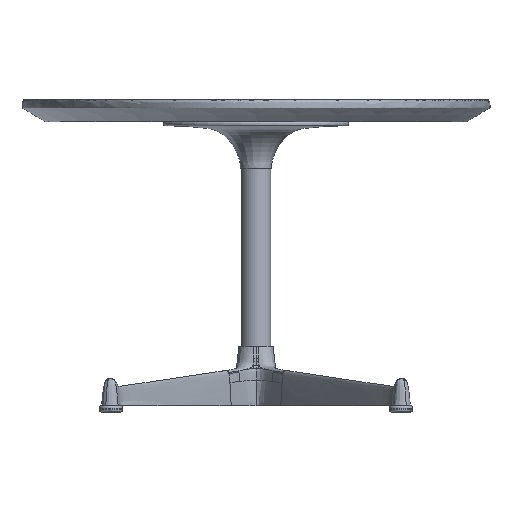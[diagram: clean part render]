
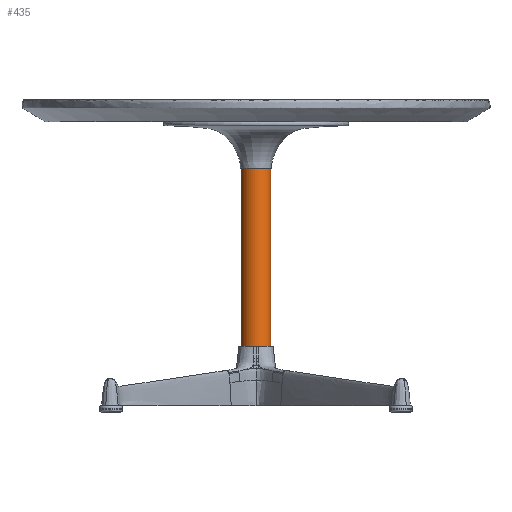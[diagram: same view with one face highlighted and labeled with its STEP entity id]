
A CAD part, left-side view. The second image highlights one B-rep face of the part: STEP entity #435.
In plain terms, the highlighted free-form (B-spline) face has degree [2, 1] with [9, 2] control points.
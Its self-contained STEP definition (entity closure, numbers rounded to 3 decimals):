
#435=ADVANCED_FACE('',(#546),#1705,.T.);
#546=FACE_OUTER_BOUND('',#657,.T.);
#657=EDGE_LOOP('',(#1131,#1132,#1133,#1134));
#1131=ORIENTED_EDGE('',*,*,#1420,.T.);
#1132=ORIENTED_EDGE('',*,*,#1421,.T.);
#1133=ORIENTED_EDGE('',*,*,#1422,.F.);
#1134=ORIENTED_EDGE('',*,*,#1421,.F.);
#1420=EDGE_CURVE('',#1672,#1672,#1498,.T.);
#1421=EDGE_CURVE('',#1672,#1673,#1499,.T.);
#1422=EDGE_CURVE('',#1673,#1673,#1500,.T.);
#1498=(
BOUNDED_CURVE()
B_SPLINE_CURVE(2,(#19390,#19391,#19392,#19393,#19394,#19395,#19396,#19397,
#19398),.UNSPECIFIED.,.T.,.F.)
B_SPLINE_CURVE_WITH_KNOTS((3,2,2,2,3),(-119.456,-89.592,
-59.728,-29.864,0.),.UNSPECIFIED.)
CURVE()
GEOMETRIC_REPRESENTATION_ITEM()
RATIONAL_B_SPLINE_CURVE((1.,0.707,1.,0.707,1.,0.707,
1.,0.707,1.))
REPRESENTATION_ITEM('')
);
#1499=(
BOUNDED_CURVE()
B_SPLINE_CURVE(1,(#19399,#19400),.UNSPECIFIED.,.F.,.F.)
B_SPLINE_CURVE_WITH_KNOTS((2,2),(0.,228.224),.UNSPECIFIED.)
CURVE()
GEOMETRIC_REPRESENTATION_ITEM()
RATIONAL_B_SPLINE_CURVE((1.,1.))
REPRESENTATION_ITEM('')
);
#1500=(
BOUNDED_CURVE()
B_SPLINE_CURVE(2,(#19401,#19402,#19403,#19404,#19405,#19406,#19407,#19408,
#19409),.UNSPECIFIED.,.T.,.F.)
B_SPLINE_CURVE_WITH_KNOTS((3,2,2,2,3),(-119.456,-89.592,
-59.728,-29.864,0.),.UNSPECIFIED.)
CURVE()
GEOMETRIC_REPRESENTATION_ITEM()
RATIONAL_B_SPLINE_CURVE((1.,0.707,1.,0.707,1.,0.707,
1.,0.707,1.))
REPRESENTATION_ITEM('')
);
#1672=VERTEX_POINT('',#19388);
#1673=VERTEX_POINT('',#19389);
#1705=(
BOUNDED_SURFACE()
B_SPLINE_SURFACE(2,1,((#19368,#19369),(#19370,#19371),(#19372,#19373),(#19374,
#19375),(#19376,#19377),(#19378,#19379),(#19380,#19381),(#19382,#19383),
(#19384,#19385)),.UNSPECIFIED.,.T.,.F.,.F.)
B_SPLINE_SURFACE_WITH_KNOTS((3,2,2,2,3),(2,2),(-119.456,-89.592,
-59.728,-29.864,0.),(0.,228.224),
 .UNSPECIFIED.)
GEOMETRIC_REPRESENTATION_ITEM()
RATIONAL_B_SPLINE_SURFACE(((1.,1.),(0.707,0.707),
(1.,1.),(0.707,0.707),(1.,1.),(0.707,
0.707),(1.,1.),(0.707,0.707),(1.,1.)))
REPRESENTATION_ITEM('')
SURFACE()
);
#19368=CARTESIAN_POINT('',(675.156,46.297,312.2));
#19369=CARTESIAN_POINT('',(675.156,46.297,83.976));
#19370=CARTESIAN_POINT('',(691.453,36.507,312.2));
#19371=CARTESIAN_POINT('',(691.453,36.507,83.976));
#19372=CARTESIAN_POINT('',(681.662,20.209,312.2));
#19373=CARTESIAN_POINT('',(681.662,20.209,83.976));
#19374=CARTESIAN_POINT('',(671.872,3.912,312.2));
#19375=CARTESIAN_POINT('',(671.872,3.912,83.976));
#19376=CARTESIAN_POINT('',(655.575,13.703,312.2));
#19377=CARTESIAN_POINT('',(655.575,13.703,83.976));
#19378=CARTESIAN_POINT('',(639.278,23.493,312.2));
#19379=CARTESIAN_POINT('',(639.278,23.493,83.976));
#19380=CARTESIAN_POINT('',(649.068,39.791,312.2));
#19381=CARTESIAN_POINT('',(649.068,39.791,83.976));
#19382=CARTESIAN_POINT('',(658.859,56.088,312.2));
#19383=CARTESIAN_POINT('',(658.859,56.088,83.976));
#19384=CARTESIAN_POINT('',(675.156,46.297,312.2));
#19385=CARTESIAN_POINT('',(675.156,46.297,83.976));
#19388=CARTESIAN_POINT('',(675.156,46.297,312.2));
#19389=CARTESIAN_POINT('',(675.156,46.297,83.976));
#19390=CARTESIAN_POINT('',(675.156,46.297,312.2));
#19391=CARTESIAN_POINT('',(691.453,36.507,312.2));
#19392=CARTESIAN_POINT('',(681.662,20.209,312.2));
#19393=CARTESIAN_POINT('',(671.872,3.912,312.2));
#19394=CARTESIAN_POINT('',(655.575,13.703,312.2));
#19395=CARTESIAN_POINT('',(639.278,23.493,312.2));
#19396=CARTESIAN_POINT('',(649.068,39.791,312.2));
#19397=CARTESIAN_POINT('',(658.859,56.088,312.2));
#19398=CARTESIAN_POINT('',(675.156,46.297,312.2));
#19399=CARTESIAN_POINT('',(675.156,46.297,312.2));
#19400=CARTESIAN_POINT('',(675.156,46.297,83.976));
#19401=CARTESIAN_POINT('',(675.156,46.297,83.976));
#19402=CARTESIAN_POINT('',(691.453,36.507,83.976));
#19403=CARTESIAN_POINT('',(681.662,20.209,83.976));
#19404=CARTESIAN_POINT('',(671.872,3.912,83.976));
#19405=CARTESIAN_POINT('',(655.575,13.703,83.976));
#19406=CARTESIAN_POINT('',(639.278,23.493,83.976));
#19407=CARTESIAN_POINT('',(649.068,39.791,83.976));
#19408=CARTESIAN_POINT('',(658.859,56.088,83.976));
#19409=CARTESIAN_POINT('',(675.156,46.297,83.976));
